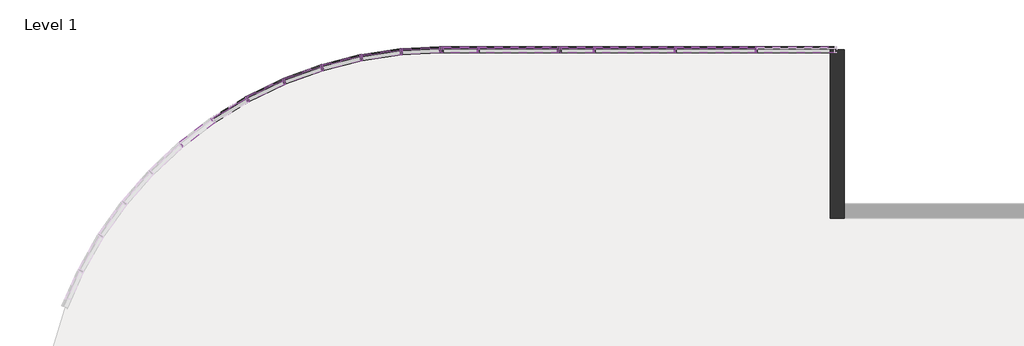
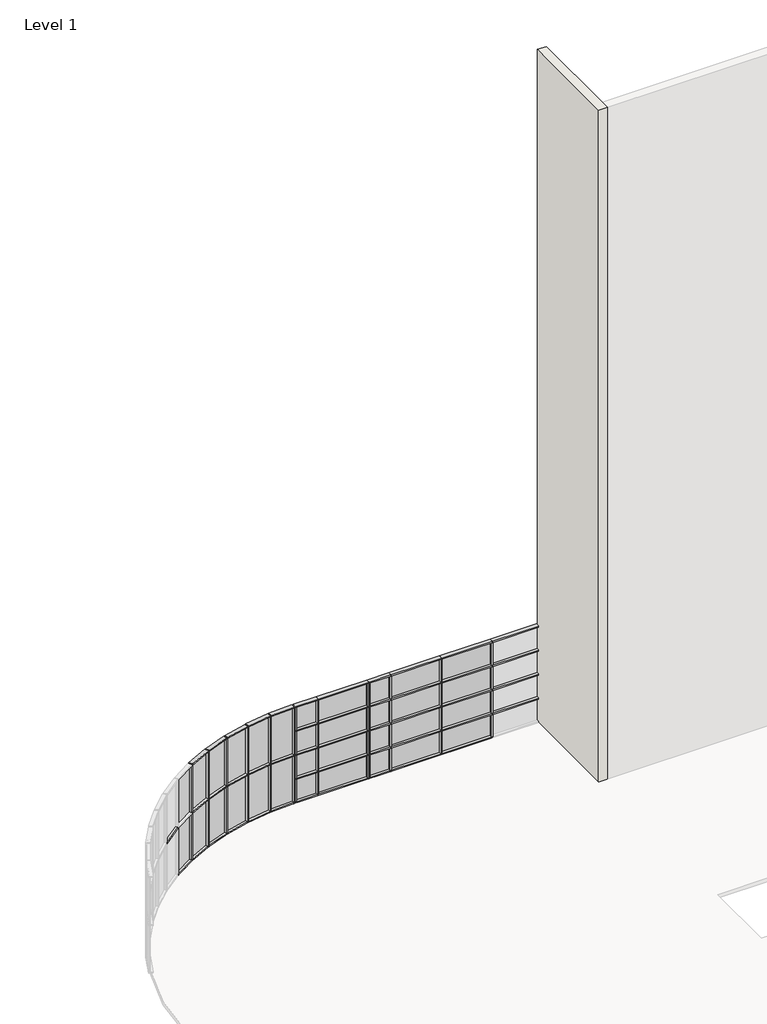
# One storey, part 5 of 6: 86 members, 32 plates, 1 wall.
"""IFC4 building model written with IfcOpenShell, lengths in millimetres."""

from ifc_helpers import new_model, si_unit, origin, place, context, project, spatial, faceted_brep, transform, mapped, element, save
from components import rectangular_mullion_50_x_150mm_a053b0ca, rectangular_mullion_50_x_150mm_116cff39, rectangular_mullion_50_x_150mm_aa47fe12, rectangular_mullion_50_x_150mm_3a148f0f, rectangular_mullion_50_x_150mm_a91aaa2b, rectangular_mullion_50_x_150mm_12a430f9, rectangular_mullion_50_x_150mm_25f32059, rectangular_mullion_50_x_150mm_f8023bcf, rectangular_mullion_50_x_150mm_a54f4cf2, rectangular_mullion_50_x_150mm_94e348ba, rectangular_mullion_50_x_150mm_9aace082, rectangular_mullion_50_x_150mm_5088cc46, rectangular_mullion_50_x_150mm_f1bc9ffe, rectangular_mullion_50_x_150mm_8db32958, system_panel_glazed_92d57a36, system_panel_glazed_751a585c, system_panel_glazed_28c32ad2, system_panel_glazed_08de6f5f, system_panel_glazed_c24add6e, system_panel_glazed_883c1928, system_panel_glazed_c2d2b348, system_panel_glazed_b9387e44, system_panel_glazed_f8e217f1, system_panel_glazed_252945b7, system_panel_glazed_1e7c886c, system_panel_glazed_3868a10e

model = new_model("IFC4")

# Units and contexts
model_context = context("Model", 3, world=origin())
ifc_project = project(units=[si_unit("LENGTHUNIT", "METRE", prefix="MILLI")], contexts=[model_context])

# Site, building, storey
site = spatial("IfcSite", under=ifc_project)
building = spatial("IfcBuilding", under=site)
storey = spatial("IfcBuildingStorey", under=building, Name="Level 1", Elevation=0.0)

# Members
placement = place(None, origin())
rectangular_mullion_50_x_150mm_shape = rectangular_mullion_50_x_150mm_a053b0ca(model_context)
element("IfcMember", 1, ObjectType="Rectangular Mullion : 50 x 150mm", at=placement, inside=storey, context=model_context, shape_type="MappedRepresentation", body=[
    mapped(rectangular_mullion_50_x_150mm_shape, transform((-7587.173406, 8375.9839566, 1025.0), x_axis=(-1.0, 0.0, 0.0), y_axis=(0.0, 1.0, 0.0), z_axis=(0.0, 0.0, -0.9999999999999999))),
])
element("IfcMember", 2, ObjectType="Rectangular Mullion : 50 x 150mm", at=placement, inside=storey, context=model_context, shape_type="MappedRepresentation", body=[
    mapped(rectangular_mullion_50_x_150mm_shape, transform((-7587.173406, 8375.9839566, 2025.0), x_axis=(-1.0, 0.0, 0.0), y_axis=(0.0, 1.0, 0.0), z_axis=(0.0, 0.0, -0.9999999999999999))),
])
element("IfcMember", 3, ObjectType="Rectangular Mullion : 50 x 150mm", at=placement, inside=storey, context=model_context, shape_type="MappedRepresentation", body=[
    mapped(rectangular_mullion_50_x_150mm_shape, transform((-7587.173406, 8375.9839566, 3025.0), x_axis=(-1.0, 0.0, 0.0), y_axis=(0.0, 1.0, 0.0), z_axis=(0.0, 0.0, -0.9999999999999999))),
])
element("IfcMember", 4, ObjectType="Rectangular Mullion : 50 x 150mm", at=placement, inside=storey, context=model_context, shape_type="MappedRepresentation", body=[
    mapped(rectangular_mullion_50_x_150mm_shape, transform((-4721.580781, 8375.9839566, 2025.0), x_axis=(-1.0, 0.0, 0.0), y_axis=(0.0, 1.0, 0.0), z_axis=(0.0, 0.0, -0.9999999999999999))),
])
element("IfcMember", 5, ObjectType="Rectangular Mullion : 50 x 150mm", at=placement, inside=storey, context=model_context, shape_type="MappedRepresentation", body=[
    mapped(rectangular_mullion_50_x_150mm_shape, transform((-4721.580781, 8375.9839566, 3025.0), x_axis=(-1.0, 0.0, 0.0), y_axis=(0.0, 1.0, 0.0), z_axis=(0.0, 0.0, -1.0))),
])
element("IfcMember", 6, ObjectType="Rectangular Mullion : 50 x 150mm", at=placement, inside=storey, context=model_context, shape_type="MappedRepresentation", body=[
    mapped(rectangular_mullion_50_x_150mm_shape, transform((-4721.580781, 8375.9839566, 1025.0), x_axis=(-1.0, 0.0, 0.0), y_axis=(0.0, 1.0, 0.0), z_axis=(0.0, 0.0, -0.9999999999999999))),
])
element("IfcMember", 7, ObjectType="Rectangular Mullion : 50 x 150mm", at=placement, inside=storey, context=model_context, shape_type="MappedRepresentation", body=[
    mapped(rectangular_mullion_50_x_150mm_shape, transform((-2721.580781, 8375.9839566, 1025.0), x_axis=(-1.0, 0.0, 0.0), y_axis=(0.0, 1.0, 0.0), z_axis=(0.0, 0.0, -0.9999999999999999))),
])
element("IfcMember", 8, ObjectType="Rectangular Mullion : 50 x 150mm", at=placement, inside=storey, context=model_context, shape_type="MappedRepresentation", body=[
    mapped(rectangular_mullion_50_x_150mm_shape, transform((-2721.580781, 8375.9839566, 2025.0), x_axis=(-1.0, 0.0, 0.0), y_axis=(0.0, 1.0, 0.0), z_axis=(0.0, 0.0, -0.9999999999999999))),
])
element("IfcMember", 9, ObjectType="Rectangular Mullion : 50 x 150mm", at=placement, inside=storey, context=model_context, shape_type="MappedRepresentation", body=[
    mapped(rectangular_mullion_50_x_150mm_shape, transform((-2721.580781, 8375.9839566, 3025.0), x_axis=(-1.0, 0.0, 0.0), y_axis=(0.0, 1.0, 0.0), z_axis=(0.0, 0.0, -1.0))),
])
element("IfcMember", 10, ObjectType="Rectangular Mullion : 50 x 150mm", at=placement, inside=storey, context=model_context, shape_type="MappedRepresentation", body=[
    mapped(rectangular_mullion_50_x_150mm_shape, transform((-721.580781, 8375.9839566, 1025.0), x_axis=(-1.0, 0.0, 0.0), y_axis=(0.0, 1.0, 0.0), z_axis=(0.0, 0.0, -0.9999999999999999))),
])
element("IfcMember", 11, ObjectType="Rectangular Mullion : 50 x 150mm", at=placement, inside=storey, context=model_context, shape_type="MappedRepresentation", body=[
    mapped(rectangular_mullion_50_x_150mm_shape, transform((-721.580781, 8375.9839566, 2025.0), x_axis=(-1.0, 0.0, 0.0), y_axis=(0.0, 1.0, 0.0), z_axis=(0.0, 0.0, -0.9999999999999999))),
])
element("IfcMember", 12, ObjectType="Rectangular Mullion : 50 x 150mm", at=placement, inside=storey, context=model_context, shape_type="MappedRepresentation", body=[
    mapped(rectangular_mullion_50_x_150mm_shape, transform((-721.580781, 8375.9839566, 3025.0), x_axis=(-1.0, 0.0, 0.0), y_axis=(0.0, 1.0, 0.0), z_axis=(0.0, 0.0, -1.0))),
])
rectangular_mullion_50_x_150mm_2_shape = rectangular_mullion_50_x_150mm_116cff39(model_context)
element("IfcMember", 13, ObjectType="Rectangular Mullion : 50 x 150mm", at=placement, inside=storey, context=model_context, shape_type="MappedRepresentation", body=[
    mapped(rectangular_mullion_50_x_150mm_2_shape, transform((-7587.173406, 8375.9839566, 50.0), x_axis=(-1.0, 0.0, 0.0), y_axis=(0.0, 1.0, 0.0), z_axis=(0.0, 0.0, -1.0))),
])
element("IfcMember", 14, ObjectType="Rectangular Mullion : 50 x 150mm", at=placement, inside=storey, context=model_context, shape_type="MappedRepresentation", body=[
    mapped(rectangular_mullion_50_x_150mm_2_shape, transform((-4721.580781, 8375.9839566, 50.0), x_axis=(-1.0, 0.0, 0.0), y_axis=(0.0, 1.0, 0.0), z_axis=(0.0, 0.0, -1.0))),
])
element("IfcMember", 15, ObjectType="Rectangular Mullion : 50 x 150mm", at=placement, inside=storey, context=model_context, shape_type="MappedRepresentation", body=[
    mapped(rectangular_mullion_50_x_150mm_2_shape, transform((-2721.580781, 8375.9839566, 50.0), x_axis=(-1.0, 0.0, 0.0), y_axis=(0.0, 1.0, 0.0), z_axis=(0.0, 0.0, -1.0))),
])
element("IfcMember", 16, ObjectType="Rectangular Mullion : 50 x 150mm", at=placement, inside=storey, context=model_context, shape_type="MappedRepresentation", body=[
    mapped(rectangular_mullion_50_x_150mm_2_shape, transform((-721.580781, 8375.9839566, 50.0), x_axis=(-1.0, 0.0, 0.0), y_axis=(0.0, 1.0, 0.0), z_axis=(0.0, 0.0, -1.0))),
])
rectangular_mullion_50_x_150mm_3_shape = rectangular_mullion_50_x_150mm_aa47fe12(model_context)
element("IfcMember", 17, ObjectType="Rectangular Mullion : 50 x 150mm", at=placement, inside=storey, context=model_context, shape_type="MappedRepresentation", body=[
    mapped(rectangular_mullion_50_x_150mm_3_shape, transform((-8496.7339025, 8375.9839566, 4000.0), x_axis=(0.998749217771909, 0.049999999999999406, 0.0), y_axis=(-0.049999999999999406, 0.998749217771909, 0.0), z_axis=(0.0, 0.0, 1.0))),
])
element("IfcMember", 18, ObjectType="Rectangular Mullion : 50 x 150mm", at=placement, inside=storey, context=model_context, shape_type="MappedRepresentation", body=[
    mapped(rectangular_mullion_50_x_150mm_3_shape, transform((-721.580781, 8375.9839566, 0.0), x_axis=(0.0, 0.0, -1.0), y_axis=(0.0, 1.0, 0.0), z_axis=(1.0, 0.0, 0.0))),
])
element("IfcMember", 19, ObjectType="Rectangular Mullion : 50 x 150mm", at=placement, inside=storey, context=model_context, shape_type="MappedRepresentation", body=[
    mapped(rectangular_mullion_50_x_150mm_3_shape, transform((-2721.580781, 8375.9839566, 0.0), x_axis=(0.0, 0.0, -1.0), y_axis=(0.0, 1.0, 0.0), z_axis=(1.0, 0.0, 0.0))),
])
rectangular_mullion_50_x_150mm_4_shape = rectangular_mullion_50_x_150mm_3a148f0f(model_context)
element("IfcMember", 20, ObjectType="Rectangular Mullion : 50 x 150mm", at=placement, inside=storey, context=model_context, shape_type="MappedRepresentation", body=[
    mapped(rectangular_mullion_50_x_150mm_4_shape, transform((-721.580781, 8375.9839566, 1000.0), x_axis=(0.0, 0.0, 1.0), y_axis=(0.0, 1.0, 0.0), z_axis=(-1.0, 0.0, 0.0))),
])
element("IfcMember", 21, ObjectType="Rectangular Mullion : 50 x 150mm", at=placement, inside=storey, context=model_context, shape_type="MappedRepresentation", body=[
    mapped(rectangular_mullion_50_x_150mm_4_shape, transform((-721.580781, 8375.9839566, 2000.0), x_axis=(0.0, 0.0, 1.0), y_axis=(0.0, 1.0, 0.0), z_axis=(-1.0, 0.0, 0.0))),
])
element("IfcMember", 22, ObjectType="Rectangular Mullion : 50 x 150mm", at=placement, inside=storey, context=model_context, shape_type="MappedRepresentation", body=[
    mapped(rectangular_mullion_50_x_150mm_4_shape, transform((-721.580781, 8375.9839566, 3000.0), x_axis=(0.0, 0.0, 1.0), y_axis=(0.0, 1.0, 0.0), z_axis=(-1.0, 0.0, 0.0))),
])
element("IfcMember", 23, ObjectType="Rectangular Mullion : 50 x 150mm", at=placement, inside=storey, context=model_context, shape_type="MappedRepresentation", body=[
    mapped(rectangular_mullion_50_x_150mm_4_shape, transform((-721.580781, 8375.9839566, 4000.0), x_axis=(0.0, 0.0, 1.0), y_axis=(0.0, 1.0, 0.0), z_axis=(-1.0, 0.0, 0.0))),
])
element("IfcMember", 24, ObjectType="Rectangular Mullion : 50 x 150mm", at=placement, inside=storey, context=model_context, shape_type="MappedRepresentation", body=[
    mapped(rectangular_mullion_50_x_150mm_4_shape, transform((-9495.4831202, 8325.9839566, 2000.0), x_axis=(-0.995, -0.09987492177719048, 0.0), y_axis=(-0.09987492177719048, 0.995, 0.0), z_axis=(0.0, 0.0, -1.0))),
])
element("IfcMember", 25, ObjectType="Rectangular Mullion : 50 x 150mm", at=placement, inside=storey, context=model_context, shape_type="MappedRepresentation", body=[
    mapped(rectangular_mullion_50_x_150mm_4_shape, transform((-10484.2448458, 8176.4839566, 2000.0), x_axis=(-0.9800500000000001, -0.1987510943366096, 0.0), y_axis=(-0.1987510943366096, 0.9800500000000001, 0.0), z_axis=(0.0, 0.0, -1.0))),
])
element("IfcMember", 26, ObjectType="Rectangular Mullion : 50 x 150mm", at=placement, inside=storey, context=model_context, shape_type="MappedRepresentation", body=[
    mapped(rectangular_mullion_50_x_150mm_4_shape, transform((-11453.131462, 7928.9789566, 2000.0), x_axis=(-0.9552995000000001, -0.29563975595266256, 0.0), y_axis=(-0.29563975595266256, 0.9552995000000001, 0.0), z_axis=(0.0, 0.0, -1.0))),
])
element("IfcMember", 27, ObjectType="Rectangular Mullion : 50 x 150mm", at=placement, inside=storey, context=model_context, shape_type="MappedRepresentation", body=[
    mapped(rectangular_mullion_50_x_150mm_4_shape, transform((-12392.4541026, 7585.9440066, 2000.0), x_axis=(-0.9209960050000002, -0.38957202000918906, 0.0), y_axis=(-0.38957202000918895, 0.920996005, 0.0), z_axis=(0.0, 0.0, -1.0))),
])
element("IfcMember", 28, ObjectType="Rectangular Mullion : 50 x 150mm", at=placement, inside=storey, context=model_context, shape_type="MappedRepresentation", body=[
    mapped(rectangular_mullion_50_x_150mm_4_shape, transform((-13292.8195411, 7150.8094561, 2000.0), x_axis=(-0.87748254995, -0.4796085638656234, 0.0), y_axis=(-0.4796085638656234, 0.87748254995, 0.0), z_axis=(0.0, 0.0, -1.0))),
])
element("IfcMember", 29, ObjectType="Rectangular Mullion : 50 x 150mm", at=placement, inside=storey, context=model_context, shape_type="MappedRepresentation", body=[
    mapped(rectangular_mullion_50_x_150mm_4_shape, transform((-2721.580781, 8375.9839566, 1000.0), x_axis=(0.0, 0.0, 1.0), y_axis=(0.0, 1.0, 0.0), z_axis=(-1.0, 0.0, 0.0))),
])
element("IfcMember", 30, ObjectType="Rectangular Mullion : 50 x 150mm", at=placement, inside=storey, context=model_context, shape_type="MappedRepresentation", body=[
    mapped(rectangular_mullion_50_x_150mm_4_shape, transform((-4721.580781, 8375.9839566, 1000.0), x_axis=(0.0, 0.0, 1.0), y_axis=(0.0, 1.0, 0.0), z_axis=(-1.0, 0.0, 0.0))),
])
element("IfcMember", 31, ObjectType="Rectangular Mullion : 50 x 150mm", at=placement, inside=storey, context=model_context, shape_type="MappedRepresentation", body=[
    mapped(rectangular_mullion_50_x_150mm_4_shape, transform((-2721.580781, 8375.9839566, 2000.0), x_axis=(0.0, 0.0, 1.0), y_axis=(0.0, 1.0, 0.0), z_axis=(-1.0, 0.0, 0.0))),
])
element("IfcMember", 32, ObjectType="Rectangular Mullion : 50 x 150mm", at=placement, inside=storey, context=model_context, shape_type="MappedRepresentation", body=[
    mapped(rectangular_mullion_50_x_150mm_4_shape, transform((-4721.580781, 8375.9839566, 2000.0), x_axis=(0.0, 0.0, 1.0), y_axis=(0.0, 1.0, 0.0), z_axis=(-1.0, 0.0, 0.0))),
])
element("IfcMember", 33, ObjectType="Rectangular Mullion : 50 x 150mm", at=placement, inside=storey, context=model_context, shape_type="MappedRepresentation", body=[
    mapped(rectangular_mullion_50_x_150mm_4_shape, transform((-2721.580781, 8375.9839566, 3000.0), x_axis=(0.0, 0.0, 1.0), y_axis=(0.0, 1.0, 0.0), z_axis=(-1.0, 0.0, 0.0))),
])
element("IfcMember", 34, ObjectType="Rectangular Mullion : 50 x 150mm", at=placement, inside=storey, context=model_context, shape_type="MappedRepresentation", body=[
    mapped(rectangular_mullion_50_x_150mm_4_shape, transform((-4721.580781, 8375.9839566, 3000.0), x_axis=(0.0, 0.0, 1.0), y_axis=(0.0, 1.0, 0.0), z_axis=(-1.0, 0.0, 0.0))),
])
element("IfcMember", 35, ObjectType="Rectangular Mullion : 50 x 150mm", at=placement, inside=storey, context=model_context, shape_type="MappedRepresentation", body=[
    mapped(rectangular_mullion_50_x_150mm_4_shape, transform((-2721.580781, 8375.9839566, 4000.0), x_axis=(0.0, 0.0, 1.0), y_axis=(0.0, 1.0, 0.0), z_axis=(-1.0, 0.0, 0.0))),
])
element("IfcMember", 36, ObjectType="Rectangular Mullion : 50 x 150mm", at=placement, inside=storey, context=model_context, shape_type="MappedRepresentation", body=[
    mapped(rectangular_mullion_50_x_150mm_4_shape, transform((-4721.580781, 8375.9839566, 4000.0), x_axis=(0.0, 0.0, 1.0), y_axis=(0.0, 1.0, 0.0), z_axis=(-1.0, 0.0, 0.0))),
])
rectangular_mullion_50_x_150mm_5_shape = rectangular_mullion_50_x_150mm_a91aaa2b(model_context)
element("IfcMember", 37, ObjectType="Rectangular Mullion : 50 x 150mm", at=placement, inside=storey, context=model_context, shape_type="MappedRepresentation", body=[
    mapped(rectangular_mullion_50_x_150mm_5_shape, transform((-5587.173406, 8375.9839566, 975.0), x_axis=(1.0, 0.0, 0.0), y_axis=(0.0, 1.0, 0.0), z_axis=(0.0, 0.0, 1.0))),
])
rectangular_mullion_50_x_150mm_6_shape = rectangular_mullion_50_x_150mm_12a430f9(model_context)
element("IfcMember", 38, ObjectType="Rectangular Mullion : 50 x 150mm", at=placement, inside=storey, context=model_context, shape_type="MappedRepresentation", body=[
    mapped(rectangular_mullion_50_x_150mm_6_shape, transform((-5587.173406, 8375.9839566, 1975.0), x_axis=(1.0, 0.0, 0.0), y_axis=(0.0, 1.0, 0.0), z_axis=(0.0, 0.0, 0.9999999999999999))),
])
element("IfcMember", 39, ObjectType="Rectangular Mullion : 50 x 150mm", at=placement, inside=storey, context=model_context, shape_type="MappedRepresentation", body=[
    mapped(rectangular_mullion_50_x_150mm_6_shape, transform((-5587.173406, 8375.9839566, 2975.0), x_axis=(1.0, 0.0, 0.0), y_axis=(0.0, 1.0, 0.0), z_axis=(0.0, 0.0, 0.9999999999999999))),
])
element("IfcMember", 40, ObjectType="Rectangular Mullion : 50 x 150mm", at=placement, inside=storey, context=model_context, shape_type="MappedRepresentation", body=[
    mapped(rectangular_mullion_50_x_150mm_6_shape, transform((-5587.173406, 8375.9839566, 3975.0), x_axis=(1.0, 0.0, 0.0), y_axis=(0.0, 1.0, 0.0), z_axis=(0.0, 0.0, 1.0))),
])
element("IfcMember", 41, ObjectType="Rectangular Mullion : 50 x 150mm", at=placement, inside=storey, context=model_context, shape_type="MappedRepresentation", body=[
    mapped(rectangular_mullion_50_x_150mm_6_shape, transform((-8496.7339025, 8375.9839566, 1025.0), x_axis=(-1.0, 0.0, 0.0), y_axis=(0.0, 1.0, 0.0), z_axis=(0.0, 0.0, -0.9999999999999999))),
])
element("IfcMember", 42, ObjectType="Rectangular Mullion : 50 x 150mm", at=placement, inside=storey, context=model_context, shape_type="MappedRepresentation", body=[
    mapped(rectangular_mullion_50_x_150mm_6_shape, transform((-8496.7339025, 8375.9839566, 2025.0), x_axis=(-1.0, 0.0, 0.0), y_axis=(0.0, 1.0, 0.0), z_axis=(0.0, 0.0, -0.9999999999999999))),
])
element("IfcMember", 43, ObjectType="Rectangular Mullion : 50 x 150mm", at=placement, inside=storey, context=model_context, shape_type="MappedRepresentation", body=[
    mapped(rectangular_mullion_50_x_150mm_6_shape, transform((-8496.7339025, 8375.9839566, 3025.0), x_axis=(-1.0, 0.0, 0.0), y_axis=(0.0, 1.0, 0.0), z_axis=(0.0, 0.0, -1.0))),
])
element("IfcMember", 44, ObjectType="Rectangular Mullion : 50 x 150mm", at=placement, inside=storey, context=model_context, shape_type="MappedRepresentation", body=[
    mapped(rectangular_mullion_50_x_150mm_6_shape, transform((-5587.173406, 8375.9839566, 1025.0), x_axis=(-1.0, 0.0, 0.0), y_axis=(0.0, 1.0, 0.0), z_axis=(0.0, 0.0, -0.9999999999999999))),
])
element("IfcMember", 45, ObjectType="Rectangular Mullion : 50 x 150mm", at=placement, inside=storey, context=model_context, shape_type="MappedRepresentation", body=[
    mapped(rectangular_mullion_50_x_150mm_6_shape, transform((-5587.173406, 8375.9839566, 2025.0), x_axis=(-1.0, 0.0, 0.0), y_axis=(0.0, 1.0, 0.0), z_axis=(0.0, 0.0, -0.9999999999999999))),
])
element("IfcMember", 46, ObjectType="Rectangular Mullion : 50 x 150mm", at=placement, inside=storey, context=model_context, shape_type="MappedRepresentation", body=[
    mapped(rectangular_mullion_50_x_150mm_6_shape, transform((-5587.173406, 8375.9839566, 3025.0), x_axis=(-1.0, 0.0, 0.0), y_axis=(0.0, 1.0, 0.0), z_axis=(0.0, 0.0, -1.0))),
])
element("IfcMember", 47, ObjectType="Rectangular Mullion : 50 x 150mm", at=placement, inside=storey, context=model_context, shape_type="MappedRepresentation", body=[
    mapped(rectangular_mullion_50_x_150mm_5_shape, transform((-8496.7339025, 8375.9839566, 50.0), x_axis=(-1.0, 0.0, 0.0), y_axis=(0.0, 1.0, 0.0), z_axis=(0.0, 0.0, -1.0))),
])
element("IfcMember", 48, ObjectType="Rectangular Mullion : 50 x 150mm", at=placement, inside=storey, context=model_context, shape_type="MappedRepresentation", body=[
    mapped(rectangular_mullion_50_x_150mm_5_shape, transform((-5587.173406, 8375.9839566, 50.0), x_axis=(-1.0, 0.0, 0.0), y_axis=(0.0, 1.0, 0.0), z_axis=(0.0, 0.0, -1.0))),
])
element("IfcMember", 49, ObjectType="Rectangular Mullion : 50 x 150mm", at=placement, inside=storey, context=model_context, shape_type="MappedRepresentation", body=[
    mapped(rectangular_mullion_50_x_150mm_4_shape, transform((-12392.4541026, 7585.9440066, 0.0), x_axis=(-0.920996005, -0.3895720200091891, 0.0), y_axis=(-0.3895720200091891, 0.920996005, 0.0), z_axis=(0.0, 0.0, -1.0))),
])
element("IfcMember", 50, ObjectType="Rectangular Mullion : 50 x 150mm", at=placement, inside=storey, context=model_context, shape_type="MappedRepresentation", body=[
    mapped(rectangular_mullion_50_x_150mm_4_shape, transform((-9495.4831202, 8325.9839566, 0.0), x_axis=(-0.995, -0.09987492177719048, 0.0), y_axis=(-0.09987492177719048, 0.995, 0.0), z_axis=(0.0, 0.0, -1.0))),
])
element("IfcMember", 51, ObjectType="Rectangular Mullion : 50 x 150mm", at=placement, inside=storey, context=model_context, shape_type="MappedRepresentation", body=[
    mapped(rectangular_mullion_50_x_150mm_4_shape, transform((-10484.2448458, 8176.4839566, 0.0), x_axis=(-0.9800500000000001, -0.1987510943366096, 0.0), y_axis=(-0.1987510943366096, 0.9800500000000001, 0.0), z_axis=(0.0, 0.0, -1.0))),
])
element("IfcMember", 52, ObjectType="Rectangular Mullion : 50 x 150mm", at=placement, inside=storey, context=model_context, shape_type="MappedRepresentation", body=[
    mapped(rectangular_mullion_50_x_150mm_4_shape, transform((-11453.131462, 7928.9789566, 0.0), x_axis=(-0.9552995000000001, -0.29563975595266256, 0.0), y_axis=(-0.29563975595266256, 0.9552995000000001, 0.0), z_axis=(0.0, 0.0, -1.0))),
])
element("IfcMember", 53, ObjectType="Rectangular Mullion : 50 x 150mm", at=placement, inside=storey, context=model_context, shape_type="MappedRepresentation", body=[
    mapped(rectangular_mullion_50_x_150mm_4_shape, transform((-13292.8195411, 7150.8094561, 0.0), x_axis=(-0.87748254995, -0.4796085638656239, 0.0), y_axis=(-0.4796085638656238, 0.8774825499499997, 0.0), z_axis=(0.0, 0.0, -1.0))),
])
rectangular_mullion_50_x_150mm_7_shape = rectangular_mullion_50_x_150mm_25f32059(model_context)
element("IfcMember", 54, ObjectType="Rectangular Mullion : 50 x 150mm", at=placement, inside=storey, context=model_context, shape_type="MappedRepresentation", body=[
    mapped(rectangular_mullion_50_x_150mm_7_shape, transform((-12368.9710366, 7594.5198803, 4000.0), x_axis=(0.0, 0.0, 0.9999999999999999), y_axis=(-0.34303495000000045, 0.9393226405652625, 0.0), z_axis=(-0.9393226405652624, -0.34303495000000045, 0.0))),
])
element("IfcMember", 55, ObjectType="Rectangular Mullion : 50 x 150mm", at=placement, inside=storey, context=model_context, shape_type="MappedRepresentation", body=[
    mapped(rectangular_mullion_50_x_150mm_7_shape, transform((-13270.3104052, 7161.6878198, 4000.0), x_axis=(0.0, 0.0, 1.0), y_axis=(-0.4351345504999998, 0.9003654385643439, 0.0), z_axis=(-0.9003654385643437, -0.43513455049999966, 0.0))),
])
element("IfcMember", 56, ObjectType="Rectangular Mullion : 50 x 150mm", at=placement, inside=storey, context=model_context, shape_type="MappedRepresentation", body=[
    mapped(rectangular_mullion_50_x_150mm_7_shape, transform((-10459.5258027, 8180.2214566, 4000.0), x_axis=(0.0, 0.0, 0.9999999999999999), y_axis=(-0.14950000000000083, 0.9887617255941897, 0.0), z_axis=(-0.9887617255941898, -0.14950000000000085, 0.0))),
])
element("IfcMember", 57, ObjectType="Rectangular Mullion : 50 x 150mm", at=placement, inside=storey, context=model_context, shape_type="MappedRepresentation", body=[
    mapped(rectangular_mullion_50_x_150mm_7_shape, transform((-11428.9092966, 7935.1665816, 4000.0), x_axis=(0.0, 0.0, 0.9999999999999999), y_axis=(-0.24750499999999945, 0.9688866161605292, 0.0), z_axis=(-0.9688866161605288, -0.24750499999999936, 0.0))),
])
element("IfcMember", 58, ObjectType="Rectangular Mullion : 50 x 150mm", at=placement, inside=storey, context=model_context, shape_type="MappedRepresentation", body=[
    mapped(rectangular_mullion_50_x_150mm_7_shape, transform((-10459.5258027, 8180.2214566, 2000.0), x_axis=(0.0, 0.0, 1.0), y_axis=(-0.14950000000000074, 0.9887617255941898, 0.0), z_axis=(-0.9887617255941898, -0.14950000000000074, 0.0))),
])
element("IfcMember", 59, ObjectType="Rectangular Mullion : 50 x 150mm", at=placement, inside=storey, context=model_context, shape_type="MappedRepresentation", body=[
    mapped(rectangular_mullion_50_x_150mm_7_shape, transform((-11428.9092966, 7935.1665816, 2000.0), x_axis=(0.0, 0.0, 0.9999999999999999), y_axis=(-0.24750499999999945, 0.9688866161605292, 0.0), z_axis=(-0.9688866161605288, -0.24750499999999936, 0.0))),
])
element("IfcMember", 60, ObjectType="Rectangular Mullion : 50 x 150mm", at=placement, inside=storey, context=model_context, shape_type="MappedRepresentation", body=[
    mapped(rectangular_mullion_50_x_150mm_7_shape, transform((-12368.9710366, 7594.5198803, 2000.0), x_axis=(0.0, 0.0, 0.9999999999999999), y_axis=(-0.34303495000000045, 0.9393226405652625, 0.0), z_axis=(-0.9393226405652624, -0.34303495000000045, 0.0))),
])
element("IfcMember", 61, ObjectType="Rectangular Mullion : 50 x 150mm", at=placement, inside=storey, context=model_context, shape_type="MappedRepresentation", body=[
    mapped(rectangular_mullion_50_x_150mm_7_shape, transform((-13270.3104052, 7161.6878198, 2000.0), x_axis=(0.0, 0.0, 1.0), y_axis=(-0.4351345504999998, 0.9003654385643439, 0.0), z_axis=(-0.9003654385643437, -0.43513455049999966, 0.0))),
])
element("IfcMember", 62, ObjectType="Rectangular Mullion : 50 x 150mm", at=placement, inside=storey, context=model_context, shape_type="MappedRepresentation", body=[
    mapped(rectangular_mullion_50_x_150mm_7_shape, transform((-14921.2458113, 6037.6594739, 2000.0), x_axis=(0.0, 0.0, 1.0), y_axis=(-0.6054022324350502, 0.795919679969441, 0.0), z_axis=(-0.795919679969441, -0.6054022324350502, 0.0))),
])
rectangular_mullion_50_x_150mm_8_shape = rectangular_mullion_50_x_150mm_f8023bcf(model_context)
element("IfcMember", 63, ObjectType="Rectangular Mullion : 50 x 150mm", at=placement, inside=storey, context=model_context, shape_type="MappedRepresentation", body=[
    mapped(rectangular_mullion_50_x_150mm_8_shape, transform((-9470.5143898, 8327.2339566, 4000.0), x_axis=(0.0, 0.0, 0.9999999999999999), y_axis=(-0.049999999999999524, 0.9987492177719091, 0.0), z_axis=(-0.998749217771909, -0.04999999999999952, 0.0))),
])
element("IfcMember", 64, ObjectType="Rectangular Mullion : 50 x 150mm", at=placement, inside=storey, context=model_context, shape_type="MappedRepresentation", body=[
    mapped(rectangular_mullion_50_x_150mm_8_shape, transform((-9470.5143898, 8327.2339566, 2000.0), x_axis=(0.0, 0.0, 0.9999999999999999), y_axis=(-0.049999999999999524, 0.9987492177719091, 0.0), z_axis=(-0.998749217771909, -0.04999999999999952, 0.0))),
])
rectangular_mullion_50_x_150mm_9_shape = rectangular_mullion_50_x_150mm_a54f4cf2(model_context)
element("IfcMember", 65, ObjectType="Rectangular Mullion : 50 x 150mm", at=placement, inside=storey, context=model_context, shape_type="MappedRepresentation", body=[
    mapped(rectangular_mullion_50_x_150mm_9_shape, transform((-9520.2021634, 8322.2464566, 0.0), x_axis=(0.0, 0.0, -1.0), y_axis=(-0.1495000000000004, 0.9887617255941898, 0.0), z_axis=(0.9887617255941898, 0.1495000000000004, 0.0))),
])
element("IfcMember", 66, ObjectType="Rectangular Mullion : 50 x 150mm", at=placement, inside=storey, context=model_context, shape_type="MappedRepresentation", body=[
    mapped(rectangular_mullion_50_x_150mm_9_shape, transform((-10508.4670112, 8170.2963316, 0.0), x_axis=(0.0, 0.0, -1.0), y_axis=(-0.24750499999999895, 0.9688866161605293, 0.0), z_axis=(0.9688866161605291, 0.2475049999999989, 0.0))),
])
element("IfcMember", 67, ObjectType="Rectangular Mullion : 50 x 150mm", at=placement, inside=storey, context=model_context, shape_type="MappedRepresentation", body=[
    mapped(rectangular_mullion_50_x_150mm_9_shape, transform((-11476.614528, 7920.4030828, 0.0), x_axis=(0.0, 0.0, -1.0), y_axis=(-0.343034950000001, 0.9393226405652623, 0.0), z_axis=(0.9393226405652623, 0.343034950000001, 0.0))),
])
element("IfcMember", 68, ObjectType="Rectangular Mullion : 50 x 150mm", at=placement, inside=storey, context=model_context, shape_type="MappedRepresentation", body=[
    mapped(rectangular_mullion_50_x_150mm_9_shape, transform((-12414.9632385, 7575.0656428, 0.0), x_axis=(0.0, 0.0, -1.0), y_axis=(-0.4351345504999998, 0.9003654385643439, 0.0), z_axis=(0.9003654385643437, 0.43513455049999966, 0.0))),
])
element("IfcMember", 69, ObjectType="Rectangular Mullion : 50 x 150mm", at=placement, inside=storey, context=model_context, shape_type="MappedRepresentation", body=[
    mapped(rectangular_mullion_50_x_150mm_9_shape, transform((-13314.1296557, 7137.7373859, 0.0), x_axis=(0.0, 0.0, -1.0), y_axis=(-0.5228828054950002, 0.8524045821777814, 0.0), z_axis=(0.8524045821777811, 0.5228828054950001, 0.0))),
])
rectangular_mullion_50_x_150mm_10_shape = rectangular_mullion_50_x_150mm_94e348ba(model_context)
element("IfcMember", 70, ObjectType="Rectangular Mullion : 50 x 150mm", at=placement, inside=storey, context=model_context, shape_type="MappedRepresentation", body=[
    mapped(rectangular_mullion_50_x_150mm_10_shape, transform((-8546.6713634, 8373.4839566, 0.0), x_axis=(0.0, 0.0, -1.0), y_axis=(-0.04999999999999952, 0.998749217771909, 0.0), z_axis=(0.998749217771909, 0.04999999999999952, 0.0))),
])
element("IfcMember", 71, ObjectType="Rectangular Mullion : 50 x 150mm", at=placement, inside=storey, context=model_context, shape_type="MappedRepresentation", body=[
    mapped(rectangular_mullion_50_x_150mm_3_shape, transform((-8496.7339025, 8375.9839566, 2000.0), x_axis=(0.998749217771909, 0.049999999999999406, 0.0), y_axis=(-0.049999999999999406, 0.998749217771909, 0.0), z_axis=(0.0, 0.0, 1.0))),
])
rectangular_mullion_50_x_150mm_11_shape = rectangular_mullion_50_x_150mm_9aace082(model_context)
element("IfcMember", 72, ObjectType="Rectangular Mullion : 50 x 150mm", at=placement, inside=storey, context=model_context, shape_type="MappedRepresentation", body=[
    mapped(rectangular_mullion_50_x_150mm_11_shape, transform((-8496.7339025, 8375.9839566, 1000.0), x_axis=(0.0, 0.0, 1.0), y_axis=(0.0, 1.0, 0.0), z_axis=(-0.9999999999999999, 0.0, 0.0))),
])
element("IfcMember", 73, ObjectType="Rectangular Mullion : 50 x 150mm", at=placement, inside=storey, context=model_context, shape_type="MappedRepresentation", body=[
    mapped(rectangular_mullion_50_x_150mm_11_shape, transform((-8496.7339025, 8375.9839566, 2000.0), x_axis=(0.0, 0.0, 1.0), y_axis=(0.0, 1.0, 0.0), z_axis=(-0.9999999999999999, 0.0, 0.0))),
])
element("IfcMember", 74, ObjectType="Rectangular Mullion : 50 x 150mm", at=placement, inside=storey, context=model_context, shape_type="MappedRepresentation", body=[
    mapped(rectangular_mullion_50_x_150mm_11_shape, transform((-8496.7339025, 8375.9839566, 3000.0), x_axis=(0.0, 0.0, 1.0), y_axis=(0.0, 1.0, 0.0), z_axis=(-1.0, 0.0, 0.0))),
])
element("IfcMember", 75, ObjectType="Rectangular Mullion : 50 x 150mm", at=placement, inside=storey, context=model_context, shape_type="MappedRepresentation", body=[
    mapped(rectangular_mullion_50_x_150mm_11_shape, transform((-8496.7339025, 8375.9839566, 4000.0), x_axis=(0.0, 0.0, 1.0), y_axis=(0.0, 1.0, 0.0), z_axis=(-1.0, 0.0, 0.0))),
])
rectangular_mullion_50_x_150mm_12_shape = rectangular_mullion_50_x_150mm_5088cc46(model_context)
element("IfcMember", 76, ObjectType="Rectangular Mullion : 50 x 150mm", at=placement, inside=storey, context=model_context, shape_type="MappedRepresentation", body=[
    mapped(rectangular_mullion_50_x_150mm_12_shape, transform((-7587.173406, 8375.9839566, 0.0), x_axis=(0.0, 0.0, -1.0), y_axis=(0.0, 1.0, 0.0), z_axis=(1.0, 0.0, 0.0))),
])
rectangular_mullion_50_x_150mm_13_shape = rectangular_mullion_50_x_150mm_f1bc9ffe(model_context)
element("IfcMember", 77, ObjectType="Rectangular Mullion : 50 x 150mm", at=placement, inside=storey, context=model_context, shape_type="MappedRepresentation", body=[
    mapped(rectangular_mullion_50_x_150mm_13_shape, transform((-5587.173406, 8375.9839566, 1000.0), x_axis=(0.0, 0.0, 1.0), y_axis=(0.0, 1.0, 0.0), z_axis=(-1.0, 0.0, 0.0))),
])
element("IfcMember", 78, ObjectType="Rectangular Mullion : 50 x 150mm", at=placement, inside=storey, context=model_context, shape_type="MappedRepresentation", body=[
    mapped(rectangular_mullion_50_x_150mm_13_shape, transform((-5587.173406, 8375.9839566, 2000.0), x_axis=(0.0, 0.0, 1.0), y_axis=(0.0, 1.0, 0.0), z_axis=(-1.0, 0.0, 0.0))),
])
element("IfcMember", 79, ObjectType="Rectangular Mullion : 50 x 150mm", at=placement, inside=storey, context=model_context, shape_type="MappedRepresentation", body=[
    mapped(rectangular_mullion_50_x_150mm_13_shape, transform((-5587.173406, 8375.9839566, 3000.0), x_axis=(0.0, 0.0, 1.0), y_axis=(0.0, 1.0, 0.0), z_axis=(-1.0, 0.0, 0.0))),
])
element("IfcMember", 80, ObjectType="Rectangular Mullion : 50 x 150mm", at=placement, inside=storey, context=model_context, shape_type="MappedRepresentation", body=[
    mapped(rectangular_mullion_50_x_150mm_13_shape, transform((-5587.173406, 8375.9839566, 4000.0), x_axis=(0.0, 0.0, 1.0), y_axis=(0.0, 1.0, 0.0), z_axis=(-1.0, 0.0, 0.0))),
])
rectangular_mullion_50_x_150mm_14_shape = rectangular_mullion_50_x_150mm_8db32958(model_context)
element("IfcMember", 81, ObjectType="Rectangular Mullion : 50 x 150mm", at=placement, inside=storey, context=model_context, shape_type="MappedRepresentation", body=[
    mapped(rectangular_mullion_50_x_150mm_14_shape, transform((-4721.580781, 8375.9839566, 0.0), x_axis=(0.0, 0.0, -1.0), y_axis=(0.0, 1.0, 0.0), z_axis=(1.0, 0.0, 0.0))),
])
element("IfcMember", 82, ObjectType="Rectangular Mullion : 50 x 150mm", at=placement, inside=storey, context=model_context, shape_type="MappedRepresentation", body=[
    mapped(rectangular_mullion_50_x_150mm_3_shape, transform((-5587.173406, 8375.9839566, 0.0), x_axis=(0.0, 0.0, -1.0), y_axis=(0.0, 1.0, 0.0), z_axis=(1.0, 0.0, 0.0))),
])
element("IfcMember", 83, ObjectType="Rectangular Mullion : 50 x 150mm", at=placement, inside=storey, context=model_context, shape_type="MappedRepresentation", body=[
    mapped(rectangular_mullion_50_x_150mm_4_shape, transform((-7587.173406, 8375.9839566, 1000.0), x_axis=(0.0, 0.0, 1.0), y_axis=(0.0, 1.0, 0.0), z_axis=(-1.0, 0.0, 0.0))),
])
element("IfcMember", 84, ObjectType="Rectangular Mullion : 50 x 150mm", at=placement, inside=storey, context=model_context, shape_type="MappedRepresentation", body=[
    mapped(rectangular_mullion_50_x_150mm_4_shape, transform((-7587.173406, 8375.9839566, 2000.0), x_axis=(0.0, 0.0, 1.0), y_axis=(0.0, 1.0, 0.0), z_axis=(-1.0, 0.0, 0.0))),
])
element("IfcMember", 85, ObjectType="Rectangular Mullion : 50 x 150mm", at=placement, inside=storey, context=model_context, shape_type="MappedRepresentation", body=[
    mapped(rectangular_mullion_50_x_150mm_4_shape, transform((-7587.173406, 8375.9839566, 3000.0), x_axis=(0.0, 0.0, 1.0), y_axis=(0.0, 1.0, 0.0), z_axis=(-1.0, 0.0, 0.0))),
])
element("IfcMember", 86, ObjectType="Rectangular Mullion : 50 x 150mm", at=placement, inside=storey, context=model_context, shape_type="MappedRepresentation", body=[
    mapped(rectangular_mullion_50_x_150mm_4_shape, transform((-7587.173406, 8375.9839566, 4000.0), x_axis=(0.0, 0.0, 1.0), y_axis=(0.0, 1.0, 0.0), z_axis=(-1.0, 0.0, 0.0))),
])

# Plates
system_panel_glazed_shape = system_panel_glazed_92d57a36(model_context)
element("IfcPlate", 87, ObjectType="System Panel : Glazed", at=placement, inside=storey, context=model_context, shape_type="MappedRepresentation", body=[
    mapped(system_panel_glazed_shape, transform((-5637.173406, 8375.9839566, 512.5), x_axis=(0.0, 0.0, 1.0), y_axis=(0.0, 1.0, 0.0), z_axis=(-1.0, 0.0, 0.0))),
])
system_panel_glazed_2_shape = system_panel_glazed_751a585c(model_context)
element("IfcPlate", 88, ObjectType="System Panel : Glazed", at=placement, inside=storey, context=model_context, shape_type="MappedRepresentation", body=[
    mapped(system_panel_glazed_2_shape, transform((-5637.173406, 8375.9839566, 1500.0), x_axis=(0.0, 0.0, 1.0), y_axis=(0.0, 1.0, 0.0), z_axis=(-1.0, 0.0, 0.0))),
])
element("IfcPlate", 89, ObjectType="System Panel : Glazed", at=placement, inside=storey, context=model_context, shape_type="MappedRepresentation", body=[
    mapped(system_panel_glazed_2_shape, transform((-5637.173406, 8375.9839566, 2500.0), x_axis=(0.0, 0.0, 1.0), y_axis=(0.0, 1.0, 0.0), z_axis=(-1.0, 0.0, 0.0))),
])
element("IfcPlate", 90, ObjectType="System Panel : Glazed", at=placement, inside=storey, context=model_context, shape_type="MappedRepresentation", body=[
    mapped(system_panel_glazed_2_shape, transform((-5637.173406, 8375.9839566, 3500.0), x_axis=(0.0, 0.0, 1.0), y_axis=(0.0, 1.0, 0.0), z_axis=(-1.0, 0.0, 0.0))),
])
system_panel_glazed_3_shape = system_panel_glazed_28c32ad2(model_context)
element("IfcPlate", 91, ObjectType="System Panel : Glazed", at=placement, inside=storey, context=model_context, shape_type="MappedRepresentation", body=[
    mapped(system_panel_glazed_3_shape, transform((-746.580781, 8375.9839566, 512.5), x_axis=(0.0, 0.0, 1.0), y_axis=(0.0, 1.0, 0.0), z_axis=(-1.0, 0.0, 0.0))),
])
element("IfcPlate", 92, ObjectType="System Panel : Glazed", at=placement, inside=storey, context=model_context, shape_type="MappedRepresentation", body=[
    mapped(system_panel_glazed_3_shape, transform((-2746.580781, 8375.9839566, 512.5), x_axis=(0.0, 0.0, 1.0), y_axis=(0.0, 1.0, 0.0), z_axis=(-1.0, 0.0, 0.0))),
])
system_panel_glazed_4_shape = system_panel_glazed_08de6f5f(model_context)
element("IfcPlate", 93, ObjectType="System Panel : Glazed", at=placement, inside=storey, context=model_context, shape_type="MappedRepresentation", body=[
    mapped(system_panel_glazed_4_shape, transform((-746.580781, 8375.9839566, 1500.0), x_axis=(0.0, 0.0, 1.0), y_axis=(0.0, 1.0, 0.0), z_axis=(-1.0, 0.0, 0.0))),
])
element("IfcPlate", 94, ObjectType="System Panel : Glazed", at=placement, inside=storey, context=model_context, shape_type="MappedRepresentation", body=[
    mapped(system_panel_glazed_4_shape, transform((-746.580781, 8375.9839566, 2500.0), x_axis=(0.0, 0.0, 1.0), y_axis=(0.0, 1.0, 0.0), z_axis=(-1.0, 0.0, 0.0))),
])
element("IfcPlate", 95, ObjectType="System Panel : Glazed", at=placement, inside=storey, context=model_context, shape_type="MappedRepresentation", body=[
    mapped(system_panel_glazed_4_shape, transform((-746.580781, 8375.9839566, 3500.0), x_axis=(0.0, 0.0, 1.0), y_axis=(0.0, 1.0, 0.0), z_axis=(-1.0, 0.0, 0.0))),
])
element("IfcPlate", 96, ObjectType="System Panel : Glazed", at=placement, inside=storey, context=model_context, shape_type="MappedRepresentation", body=[
    mapped(system_panel_glazed_4_shape, transform((-2746.580781, 8375.9839566, 1500.0), x_axis=(0.0, 0.0, 1.0), y_axis=(0.0, 1.0, 0.0), z_axis=(-1.0, 0.0, 0.0))),
])
element("IfcPlate", 97, ObjectType="System Panel : Glazed", at=placement, inside=storey, context=model_context, shape_type="MappedRepresentation", body=[
    mapped(system_panel_glazed_4_shape, transform((-2746.580781, 8375.9839566, 2500.0), x_axis=(0.0, 0.0, 1.0), y_axis=(0.0, 1.0, 0.0), z_axis=(-1.0, 0.0, 0.0))),
])
element("IfcPlate", 98, ObjectType="System Panel : Glazed", at=placement, inside=storey, context=model_context, shape_type="MappedRepresentation", body=[
    mapped(system_panel_glazed_4_shape, transform((-2746.580781, 8375.9839566, 3500.0), x_axis=(0.0, 0.0, 1.0), y_axis=(0.0, 1.0, 0.0), z_axis=(-1.0, 0.0, 0.0))),
])
system_panel_glazed_5_shape = system_panel_glazed_c24add6e(model_context)
element("IfcPlate", 99, ObjectType="System Panel : Glazed", at=placement, inside=storey, context=model_context, shape_type="MappedRepresentation", body=[
    mapped(system_panel_glazed_5_shape, transform((-9008.5928766, 8350.3589566, 50.0), x_axis=(-0.998749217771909, -0.049999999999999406, 0.0), y_axis=(0.049999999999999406, -0.998749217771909, 0.0), z_axis=(0.0, 0.0, 1.0))),
])
system_panel_glazed_6_shape = system_panel_glazed_883c1928(model_context)
element("IfcPlate", 100, ObjectType="System Panel : Glazed", at=placement, inside=storey, context=model_context, shape_type="MappedRepresentation", body=[
    mapped(system_panel_glazed_6_shape, transform((-9989.863983, 8251.2339566, 50.0), x_axis=(-0.9887617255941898, -0.1495000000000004, 0.0), y_axis=(0.1495000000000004, -0.9887617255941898, 0.0), z_axis=(0.0, 0.0, 1.0))),
])
element("IfcPlate", 101, ObjectType="System Panel : Glazed", at=placement, inside=storey, context=model_context, shape_type="MappedRepresentation", body=[
    mapped(system_panel_glazed_6_shape, transform((-10968.6881539, 8052.7314566, 50.0), x_axis=(-0.9688866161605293, -0.24750499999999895, 0.0), y_axis=(0.24750499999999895, -0.9688866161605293, 0.0), z_axis=(0.0, 0.0, 1.0))),
])
element("IfcPlate", 102, ObjectType="System Panel : Glazed", at=placement, inside=storey, context=model_context, shape_type="MappedRepresentation", body=[
    mapped(system_panel_glazed_6_shape, transform((-11922.7927823, 7757.4614816, 50.0), x_axis=(-0.9393226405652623, -0.3430349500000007, 0.0), y_axis=(0.3430349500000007, -0.9393226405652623, 0.0), z_axis=(0.0, 0.0, 1.0))),
])
element("IfcPlate", 103, ObjectType="System Panel : Glazed", at=placement, inside=storey, context=model_context, shape_type="MappedRepresentation", body=[
    mapped(system_panel_glazed_6_shape, transform((-12842.6368218, 7368.3767313, 50.0), x_axis=(-0.9003654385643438, -0.43513455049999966, 0.0), y_axis=(0.43513455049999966, -0.9003654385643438, 0.0), z_axis=(0.0, 0.0, 1.0))),
])
element("IfcPlate", 104, ObjectType="System Panel : Glazed", at=placement, inside=storey, context=model_context, shape_type="MappedRepresentation", body=[
    mapped(system_panel_glazed_6_shape, transform((-13719.0218322, 6889.3680533, 50.0), x_axis=(-0.8524045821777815, -0.5228828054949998, 0.0), y_axis=(0.5228828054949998, -0.8524045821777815, 0.0), z_axis=(0.0, 0.0, 1.0))),
])
system_panel_glazed_7_shape = system_panel_glazed_c2d2b348(model_context)
element("IfcPlate", 105, ObjectType="System Panel : Glazed", at=placement, inside=storey, context=model_context, shape_type="MappedRepresentation", body=[
    mapped(system_panel_glazed_7_shape, transform((-9008.5928766, 8350.3589566, 2025.0), x_axis=(-0.998749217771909, -0.049999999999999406, 0.0), y_axis=(0.049999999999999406, -0.998749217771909, 0.0), z_axis=(0.0, 0.0, 1.0))),
])
system_panel_glazed_8_shape = system_panel_glazed_b9387e44(model_context)
element("IfcPlate", 106, ObjectType="System Panel : Glazed", at=placement, inside=storey, context=model_context, shape_type="MappedRepresentation", body=[
    mapped(system_panel_glazed_8_shape, transform((-9989.863983, 8251.2339566, 2025.0), x_axis=(-0.9887617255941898, -0.1495000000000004, 0.0), y_axis=(0.1495000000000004, -0.9887617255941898, 0.0), z_axis=(0.0, 0.0, 1.0))),
])
element("IfcPlate", 107, ObjectType="System Panel : Glazed", at=placement, inside=storey, context=model_context, shape_type="MappedRepresentation", body=[
    mapped(system_panel_glazed_8_shape, transform((-10968.6881539, 8052.7314566, 2025.0), x_axis=(-0.9688866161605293, -0.24750499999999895, 0.0), y_axis=(0.24750499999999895, -0.9688866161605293, 0.0), z_axis=(0.0, 0.0, 1.0))),
])
element("IfcPlate", 108, ObjectType="System Panel : Glazed", at=placement, inside=storey, context=model_context, shape_type="MappedRepresentation", body=[
    mapped(system_panel_glazed_8_shape, transform((-11922.7927823, 7757.4614816, 2025.0), x_axis=(-0.9393226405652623, -0.3430349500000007, 0.0), y_axis=(0.3430349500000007, -0.9393226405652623, 0.0), z_axis=(0.0, 0.0, 1.0))),
])
element("IfcPlate", 109, ObjectType="System Panel : Glazed", at=placement, inside=storey, context=model_context, shape_type="MappedRepresentation", body=[
    mapped(system_panel_glazed_8_shape, transform((-12842.6368218, 7368.3767313, 2025.0), x_axis=(-0.9003654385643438, -0.43513455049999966, 0.0), y_axis=(0.43513455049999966, -0.9003654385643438, 0.0), z_axis=(0.0, 0.0, 1.0))),
])
element("IfcPlate", 110, ObjectType="System Panel : Glazed", at=placement, inside=storey, context=model_context, shape_type="MappedRepresentation", body=[
    mapped(system_panel_glazed_8_shape, transform((-13719.0218322, 6889.3680533, 2025.0), x_axis=(-0.8524045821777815, -0.5228828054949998, 0.0), y_axis=(0.5228828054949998, -0.8524045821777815, 0.0), z_axis=(0.0, 0.0, 1.0))),
])
system_panel_glazed_9_shape = system_panel_glazed_f8e217f1(model_context)
element("IfcPlate", 111, ObjectType="System Panel : Glazed", at=placement, inside=storey, context=model_context, shape_type="MappedRepresentation", body=[
    mapped(system_panel_glazed_9_shape, transform((-7612.173406, 8375.9839566, 512.5), x_axis=(0.0, 0.0, 1.0), y_axis=(0.0, 1.0, 0.0), z_axis=(-1.0, 0.0, 0.0))),
])
system_panel_glazed_10_shape = system_panel_glazed_252945b7(model_context)
element("IfcPlate", 112, ObjectType="System Panel : Glazed", at=placement, inside=storey, context=model_context, shape_type="MappedRepresentation", body=[
    mapped(system_panel_glazed_10_shape, transform((-7612.173406, 8375.9839566, 1500.0), x_axis=(0.0, 0.0, 1.0), y_axis=(0.0, 1.0, 0.0), z_axis=(-1.0, 0.0, 0.0))),
])
element("IfcPlate", 113, ObjectType="System Panel : Glazed", at=placement, inside=storey, context=model_context, shape_type="MappedRepresentation", body=[
    mapped(system_panel_glazed_10_shape, transform((-7612.173406, 8375.9839566, 2500.0), x_axis=(0.0, 0.0, 1.0), y_axis=(0.0, 1.0, 0.0), z_axis=(-1.0, 0.0, 0.0))),
])
element("IfcPlate", 114, ObjectType="System Panel : Glazed", at=placement, inside=storey, context=model_context, shape_type="MappedRepresentation", body=[
    mapped(system_panel_glazed_10_shape, transform((-7612.173406, 8375.9839566, 3500.0), x_axis=(0.0, 0.0, 1.0), y_axis=(0.0, 1.0, 0.0), z_axis=(-1.0, 0.0, 0.0))),
])
system_panel_glazed_11_shape = system_panel_glazed_1e7c886c(model_context)
element("IfcPlate", 115, ObjectType="System Panel : Glazed", at=placement, inside=storey, context=model_context, shape_type="MappedRepresentation", body=[
    mapped(system_panel_glazed_11_shape, transform((-4746.580781, 8375.9839566, 512.5), x_axis=(0.0, 0.0, 1.0), y_axis=(0.0, 1.0, 0.0), z_axis=(-1.0, 0.0, 0.0))),
])
system_panel_glazed_12_shape = system_panel_glazed_3868a10e(model_context)
element("IfcPlate", 116, ObjectType="System Panel : Glazed", at=placement, inside=storey, context=model_context, shape_type="MappedRepresentation", body=[
    mapped(system_panel_glazed_12_shape, transform((-4746.580781, 8375.9839566, 1500.0), x_axis=(0.0, 0.0, 1.0), y_axis=(0.0, 1.0, 0.0), z_axis=(-1.0, 0.0, 0.0))),
])
element("IfcPlate", 117, ObjectType="System Panel : Glazed", at=placement, inside=storey, context=model_context, shape_type="MappedRepresentation", body=[
    mapped(system_panel_glazed_12_shape, transform((-4746.580781, 8375.9839566, 2500.0), x_axis=(0.0, 0.0, 1.0), y_axis=(0.0, 1.0, 0.0), z_axis=(-1.0, 0.0, 0.0))),
])
element("IfcPlate", 118, ObjectType="System Panel : Glazed", at=placement, inside=storey, context=model_context, shape_type="MappedRepresentation", body=[
    mapped(system_panel_glazed_12_shape, transform((-4746.580781, 8375.9839566, 3500.0), x_axis=(0.0, 0.0, 1.0), y_axis=(0.0, 1.0, 0.0), z_axis=(-1.0, 0.0, 0.0))),
])

# Wall
element("IfcWall", 119, ObjectType="Exterior - Brick on Mtl. Stud", at=placement, inside=storey, context=model_context, shape_type="Brep", body=[
    faceted_brep([(1463.419219, 4210.9839566, 0.0), (1463.419219, 4560.9839566, 0.0), (1463.419219, 8375.9839566, 0.0), (1463.419219, 8375.9839566, 28000.0), (1463.419219, 4560.9839566, 28000.0), (1463.419219, 4210.9839566, 28000.0), (1113.419219, 4210.9839566, 0.0), (1113.419219, 4210.9839566, 28000.0), (1113.419219, 8375.9839566, 28000.0), (1113.419219, 8375.9839566, 0.0)], [[[0, 1, 2, 3, 4, 5]], [[6, 7, 8, 9]], [[2, 1, 0, 6, 9]], [[3, 2, 9, 8]], [[5, 4, 3, 8, 7]], [[0, 5, 7, 6]]]),
])

save(model, "model.ifc")
